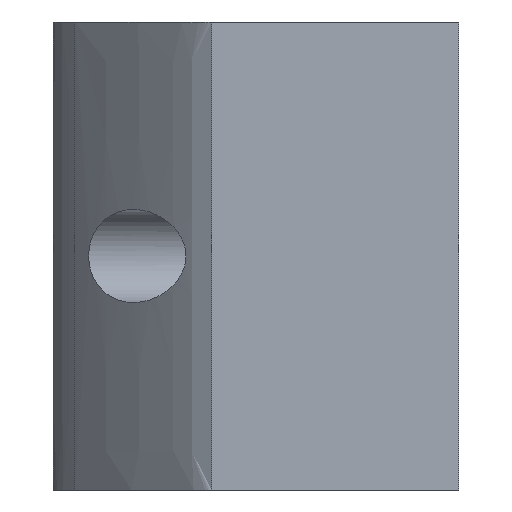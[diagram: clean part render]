
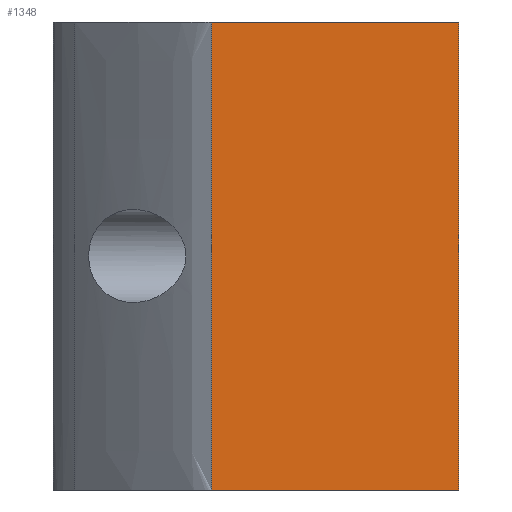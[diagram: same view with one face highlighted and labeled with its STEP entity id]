
A CAD part, front view. The second image highlights one B-rep face of the part: STEP entity #1348.
In plain terms, the highlighted planar face has unit normal (0, -1, 0).
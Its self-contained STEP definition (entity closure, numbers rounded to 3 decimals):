
#121=DIRECTION('',(0.,0.,-1.));
#122=VECTOR('',#121,41.5);
#123=CARTESIAN_POINT('',(-213.,-24.65,-41.));
#124=LINE('',#123,#122);
#125=DIRECTION('',(-1.,0.,0.));
#126=VECTOR('',#125,21.928);
#127=CARTESIAN_POINT('',(-213.,-24.65,-82.5));
#128=LINE('',#127,#126);
#139=DIRECTION('',(-1.,0.,0.));
#140=VECTOR('',#139,21.928);
#141=CARTESIAN_POINT('',(-213.,-24.65,-41.));
#142=LINE('',#141,#140);
#888=DIRECTION('',(0.,0.,-1.));
#889=VECTOR('',#888,41.5);
#890=CARTESIAN_POINT('',(-234.928,-24.65,-41.));
#891=LINE('',#890,#889);
#1072=CARTESIAN_POINT('',(-213.,-24.65,-82.5));
#1073=CARTESIAN_POINT('',(-234.928,-24.65,-82.5));
#1074=VERTEX_POINT('',#1072);
#1075=VERTEX_POINT('',#1073);
#1098=CARTESIAN_POINT('',(-213.,-24.65,-41.));
#1099=CARTESIAN_POINT('',(-234.928,-24.65,-41.));
#1100=VERTEX_POINT('',#1098);
#1101=VERTEX_POINT('',#1099);
#1334=CARTESIAN_POINT('',(-213.,-24.65,-82.502));
#1335=DIRECTION('',(0.,-1.,0.));
#1336=DIRECTION('',(-1.,0.,0.));
#1337=AXIS2_PLACEMENT_3D('',#1334,#1335,#1336);
#1338=PLANE('',#1337);
#1340=ORIENTED_EDGE('',*,*,#1339,.F.);
#1342=ORIENTED_EDGE('',*,*,#1341,.T.);
#1343=ORIENTED_EDGE('',*,*,#1300,.T.);
#1345=ORIENTED_EDGE('',*,*,#1344,.F.);
#1346=EDGE_LOOP('',(#1340,#1342,#1343,#1345));
#1347=FACE_OUTER_BOUND('',#1346,.F.);
#1348=ADVANCED_FACE('',(#1347),#1338,.T.);
#1300=EDGE_CURVE('',#1074,#1075,#128,.T.);
#1339=EDGE_CURVE('',#1100,#1101,#142,.T.);
#1341=EDGE_CURVE('',#1100,#1074,#124,.T.);
#1344=EDGE_CURVE('',#1101,#1075,#891,.T.);
